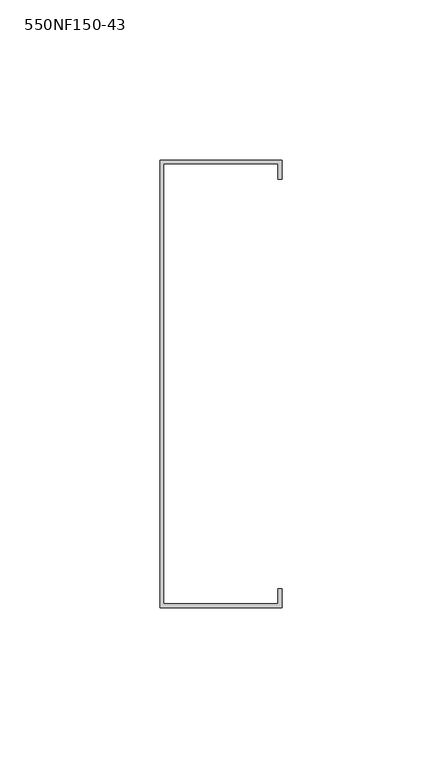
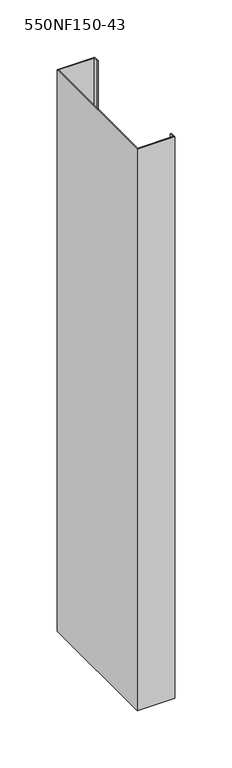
"""IFC4 building model written with IfcOpenShell, lengths in millimetres: column geometry, BIMSF-SSMA-S-Column : 550NF150-43."""

from ifc_helpers import new_model, si_unit, frame, origin, place, context, project, spatial, polyline, outline, extrude, source, transform, mapped, element, save


def column_550nf150_43_06d72ba6(model_context):
    return source(origin(), model_context, "Body", "SweptSolid", [
        extrude(outline(polyline([(-11.9977877, -80.5871249), (-11.9977877, 59.1128751), (26.1022123, 59.1128751), (26.1022123, 53.1879908), (24.952528, 53.1879908), (24.952528, 57.9631908), (-10.8481035, 57.9631908), (-10.8481035, -79.4374407), (24.952528, -79.4374407), (24.952528, -74.6622407), (26.1022123, -74.6622407), (26.1022123, -80.5871249), (-11.9977877, -80.5871249)])), frame((0.0, 0.0, 5525.3929688), z_axis=(0.0, 0.0, 1.0), x_axis=(1.0, 0.0, 0.0)), (0.0, 0.0, 1.0), 599.678125),
    ])


if __name__ == "__main__":
    model = new_model("IFC4")
    model_context = context("Model", 3, world=origin())
    ifc_project = project(units=[si_unit("LENGTHUNIT", "METRE", prefix="MILLI")], contexts=[model_context])
    site = spatial("IfcSite", under=ifc_project)
    building = spatial("IfcBuilding", under=site)
    placement = place(None, origin())
    column_550nf150_43_shape = column_550nf150_43_06d72ba6(model_context)
    element("IfcColumn", 1, ObjectType="BIMSF-SSMA-S-Column : 550NF150-43", at=placement, inside=building, context=model_context, shape_type="MappedRepresentation", body=[
        mapped(column_550nf150_43_shape, transform((0.0, 0.0, 0.0), x_axis=(1.0, 0.0, 0.0), y_axis=(0.0, 1.0, 0.0), z_axis=(0.0, 0.0, 1.0))),
    ])
    save(model, "model.ifc")
